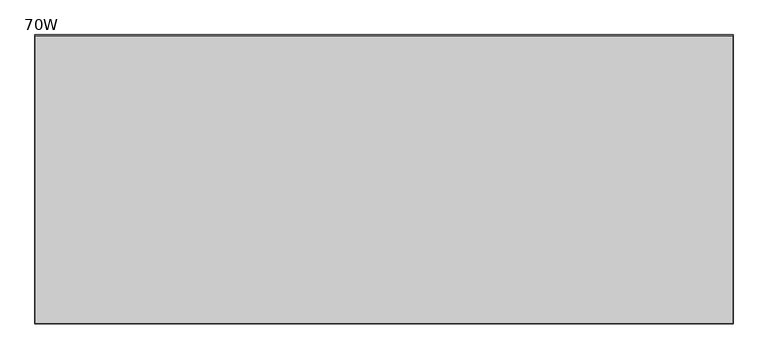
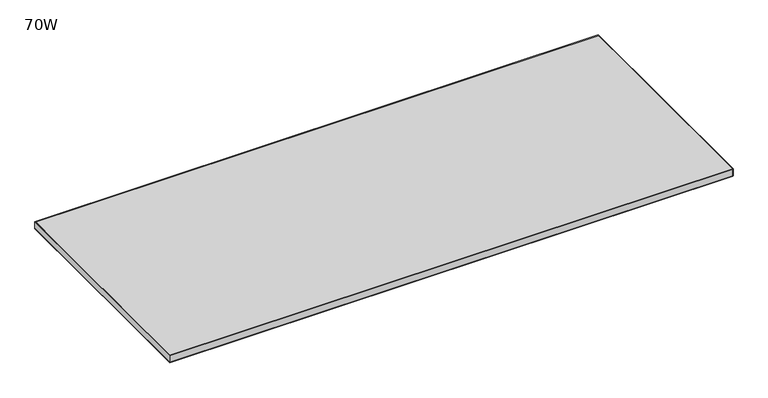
"""IFC4 building model written with IfcOpenShell, lengths in millimetres: furniture geometry, Steelcase - Ology - Desk Electric - Rectangular - 29D : 70W."""

import ifcopenshell
import ifcopenshell.guid

model = None  # the IFC model being written
_history = None  # IfcOwnerHistory: only IFC2X3 demands one
_inside = {}  # id of a spatial element -> (the spatial element, [elements in it])
_under = {}  # id of a project, library or spatial element -> (it, [spatial elements below it])
_declared = {}  # id of a project -> (the project, [libraries it declares])
_typed = {}  # id of a type object -> (the type object, [elements of that type])
_made_of = {}  # id of a material, layer set ... -> (it, [elements and type objects made of it])


def new_model(schema):
    """Start an empty IFC model of exactly this schema.

    Asked for "IFC4X3", IfcOpenShell would pick the latest addendum, in which some entities
    have other attributes; the version numbers below select the first issue.
    IFC2X3 requires an IfcOwnerHistory on every rooted entity: one is made here for all.
    """
    global model, _history
    if schema == "IFC4X3":
        model = ifcopenshell.file(schema_version=(4, 3, 0, 0))
    else:
        model = ifcopenshell.file(schema=schema)
    _inside.clear()
    _under.clear()
    _declared.clear()
    _typed.clear()
    _made_of.clear()
    _history = None
    if model.schema == "IFC2X3":
        org = make("IfcOrganization", Name="unknown")
        user = make(
            "IfcPersonAndOrganization",
            ThePerson=make("IfcPerson", FamilyName="unknown"),
            TheOrganization=org,
        )
        app = make(
            "IfcApplication",
            ApplicationDeveloper=org,
            Version="unknown",
            ApplicationFullName="unknown",
            ApplicationIdentifier="unknown",
        )
        _history = make(
            "IfcOwnerHistory",
            OwningUser=user,
            OwningApplication=app,
            ChangeAction="ADDED",
            CreationDate=0,
        )
    return model


def make(cls, **values):
    """One entity of the class cls with the attributes given. An attribute that is None is left unset."""
    return model.create_entity(
        cls, **{name: value for name, value in values.items() if value is not None}
    )


def rooted(cls, **values):
    """An entity with a GlobalId (a new one), such as an element, a storey or a relation."""
    return make(cls, GlobalId=ifcopenshell.guid.new(), OwnerHistory=_history, **values)


def si_unit(unit_type, name, prefix=None):
    """IfcSIUnit, for example si_unit("LENGTHUNIT", "METRE", prefix="MILLI")."""
    return make("IfcSIUnit", UnitType=unit_type, Prefix=prefix, Name=name)


def assignment(units):
    """IfcUnitAssignment: the units of a project."""
    return None if units is None else make("IfcUnitAssignment", Units=units)


def point(xyz):
    """IfcCartesianPoint."""
    return None if xyz is None else make("IfcCartesianPoint", Coordinates=xyz)


def direction(xyz):
    """IfcDirection."""
    return None if xyz is None else make("IfcDirection", DirectionRatios=xyz)


def frame(location, z_axis=None, x_axis=None):
    """IfcAxis2Placement3D, a coordinate frame: its origin and axes. An axis left out is left unset."""
    return make(
        "IfcAxis2Placement3D",
        Location=point(location),
        Axis=direction(z_axis),
        RefDirection=direction(x_axis),
    )


def origin():
    """The frame at (0, 0, 0) with its axes left unset."""
    return frame((0.0, 0.0, 0.0))


def place(relative_to, where):
    """IfcLocalPlacement: puts the frame where relative to a parent placement (None: the world)."""
    return make(
        "IfcLocalPlacement", PlacementRelTo=relative_to, RelativePlacement=where
    )


def context(
    kind, dimensions, precision=None, world=None, true_north=None, identifier=None
):
    """IfcGeometricRepresentationContext, for example the 3D "Model" context."""
    return make(
        "IfcGeometricRepresentationContext",
        ContextIdentifier=identifier,
        ContextType=kind,
        CoordinateSpaceDimension=dimensions,
        Precision=precision,
        WorldCoordinateSystem=world,
        TrueNorth=true_north,
    )


def project(units=None, contexts=None):
    """IfcProject with its units and contexts."""
    return rooted(
        "IfcProject",
        Name="project",
        RepresentationContexts=contexts,
        UnitsInContext=assignment(units),
    )


def spatial(cls, under=None, at=None, **own):
    """A site, building, storey or space (cls), placed at a placement, below another one or the project."""
    s = rooted(cls, ObjectPlacement=at, **own)
    if under is not None:
        _under.setdefault(under.id(), (under, []))[1].append(s)
    return s


def polyline(points):
    """IfcPolyline through the points."""
    return make("IfcPolyline", Points=[point(p) for p in points])


def outline(outer, holes=None, kind="AREA"):
    """IfcArbitraryClosedProfileDef: a profile drawn as a closed curve; with holes, ...WithVoids."""
    if holes is None:
        return make("IfcArbitraryClosedProfileDef", ProfileType=kind, OuterCurve=outer)
    return make(
        "IfcArbitraryProfileDefWithVoids",
        ProfileType=kind,
        OuterCurve=outer,
        InnerCurves=holes,
    )


def extrude(swept, where, along, depth):
    """IfcExtrudedAreaSolid: the profile swept, set in the frame where, extruded along a direction by depth."""
    return make(
        "IfcExtrudedAreaSolid",
        SweptArea=swept,
        Position=where,
        ExtrudedDirection=direction(along),
        Depth=depth,
    )


def faces_of(points, faces, orient=None, outer=None):
    """IfcFace entities. A face is a list of loops; a loop is a list of indices into points, from 0.

    orient and outer hold one flag for each loop. By default every Orientation is true, the
    first loop of a face is its IfcFaceOuterBound and the others are IfcFaceBound.
    """
    made = []
    for i, loops in enumerate(faces):
        bounds = []
        for j, loop in enumerate(loops):
            is_outer = j == 0 if outer is None else outer[i][j]
            bounds.append(
                make(
                    "IfcFaceOuterBound" if is_outer else "IfcFaceBound",
                    Bound=make("IfcPolyLoop", Polygon=[points[k] for k in loop]),
                    Orientation=True if orient is None else orient[i][j],
                )
            )
        made.append(make("IfcFace", Bounds=bounds))
    return made


def faceted_brep(points, faces, orient=None, outer=None, voids=None):
    """IfcFacetedBrep: a solid bounded by flat faces; with voids (closed shells), ...WithVoids."""
    shared = [point(p) for p in points]
    hull = make("IfcClosedShell", CfsFaces=faces_of(shared, faces, orient, outer))
    if voids is None:
        return make("IfcFacetedBrep", Outer=hull)
    return make(
        "IfcFacetedBrepWithVoids",
        Outer=hull,
        Voids=[
            make(cls, CfsFaces=faces_of(shared, fs, o, b)) for cls, fs, o, b in voids
        ],
    )


def shape(context_of_items, identifier, shape_type, items):
    """IfcShapeRepresentation: the items that make up one representation, for example the "Body"."""
    return make(
        "IfcShapeRepresentation",
        ContextOfItems=context_of_items,
        RepresentationIdentifier=identifier,
        RepresentationType=shape_type,
        Items=items,
    )


def source(mapping_origin, context_of_items, identifier, shape_type, items):
    """IfcRepresentationMap: a shape defined once, which mapped items show again and again."""
    return make(
        "IfcRepresentationMap",
        MappingOrigin=mapping_origin,
        MappedRepresentation=shape(context_of_items, identifier, shape_type, items),
    )


def transform(
    local_origin,
    x_axis=None,
    y_axis=None,
    z_axis=None,
    scale=None,
    scale2=None,
    scale3=None,
    uniform=True,
):
    """IfcCartesianTransformationOperator3D, or its non-uniform kind. x_axis, y_axis, z_axis: its Axis1, 2, 3."""
    if uniform:
        return make(
            "IfcCartesianTransformationOperator3D",
            Axis1=direction(x_axis),
            Axis2=direction(y_axis),
            LocalOrigin=point(local_origin),
            Scale=scale,
            Axis3=direction(z_axis),
        )
    return make(
        "IfcCartesianTransformationOperator3DnonUniform",
        Axis1=direction(x_axis),
        Axis2=direction(y_axis),
        LocalOrigin=point(local_origin),
        Scale=scale,
        Axis3=direction(z_axis),
        Scale2=scale2,
        Scale3=scale3,
    )


def mapped(mapping_source, mapping_target):
    """IfcMappedItem: shows the shape of a source again, moved by a transform."""
    return make(
        "IfcMappedItem", MappingSource=mapping_source, MappingTarget=mapping_target
    )


def made_of(thing, what):
    """Note that an element or type object is made of a material, layer set ...; save() writes the relation."""
    if what is not None:
        _made_of.setdefault(what.id(), (what, []))[1].append(thing)
    return thing


def element(
    cls,
    number,
    at=None,
    inside=None,
    cuts=None,
    type_object=None,
    material=None,
    context=None,
    identifier="Body",
    shape_type=None,
    held_by="IfcProductDefinitionShape",
    body=None,
    shapes=None,
    **own,
):
    """One element of the class cls, such as IfcWall. Its Tag is "e" and its number.

    at: its placement. inside: the storey or other place that contains it. cuts: it is an
    opening in that element (IfcRelVoidsElement). A single representation is given by context,
    identifier, shape_type and body (its items); several are given by shapes. held_by: the class
    of the entity that holds the representations. save() writes the other relations.
    """
    e = rooted(cls, Tag="e%d" % number, ObjectPlacement=at, **own)
    if body is not None:
        shapes = [shape(context, identifier, shape_type, body)]
    if shapes is not None:
        e.Representation = make(held_by, Representations=shapes)
    if inside is not None:
        _inside.setdefault(inside.id(), (inside, []))[1].append(e)
    if cuts is not None:
        rooted(
            "IfcRelVoidsElement", RelatingBuildingElement=cuts, RelatedOpeningElement=e
        )
    if type_object is not None:
        _typed.setdefault(type_object.id(), (type_object, []))[1].append(e)
    return made_of(e, material)


def aggregate(whole, parts):
    """IfcRelAggregates: a whole, such as a stair, and the parts it consists of."""
    return rooted("IfcRelAggregates", RelatingObject=whole, RelatedObjects=parts)


def save(model, path):
    """Write the relations noted so far, then the file.

    IfcRelAggregates (storeys below a building ...), IfcRelContainedInSpatialStructure (elements
    in a storey), IfcRelDefinesByType, IfcRelAssociatesMaterial and IfcRelDeclares: one each for
    every whole, place, type object, material and project.
    """
    for whole, parts in _under.values():
        aggregate(whole, parts)
    for where, things in _inside.values():
        rooted(
            "IfcRelContainedInSpatialStructure",
            RelatedElements=things,
            RelatingStructure=where,
        )
    for kind, things in _typed.values():
        rooted("IfcRelDefinesByType", RelatedObjects=things, RelatingType=kind)
    for what, things in _made_of.values():
        rooted("IfcRelAssociatesMaterial", RelatedObjects=things, RelatingMaterial=what)
    for by, libraries in _declared.values():
        rooted("IfcRelDeclares", RelatingContext=by, RelatedDefinitions=libraries)
    model.write(path)


def furniture_70w_9bcf4590(model_context):
    return source(origin(), model_context, "Body", "SolidModel", [
        faceted_brep([(-736.6, 451.599999, 716.1529564), (1041.4, 451.599999, 716.1529564), (1041.1794226, 451.3794217, 714.902), (-736.3794226, 451.3794217, 714.902), (-736.6, 451.599999, 738.6320349), (1041.4, 451.599999, 738.6320349), (-736.421518, 451.4215171, 739.902), (1041.221518, 451.4215171, 739.902), (1041.4, -284.9999273, 716.1529564), (1041.1794226, -284.77935, 714.902), (1041.4, -284.9999273, 738.6320349), (1041.221518, -284.8214454, 739.902), (1040.384001, -283.9839283, 739.902), (1040.384001, 448.5527419, 739.902), (1040.384001, 448.5527419, 714.902), (1040.384001, -283.9839283, 714.902), (-736.6, -284.9999273, 716.1529564), (-736.3794226, -284.77935, 714.902), (-736.6, -284.9999273, 738.6320349), (-736.421518, -284.8214454, 739.902), (-735.584001, -283.9839283, 714.902), (-735.584001, -283.9839283, 739.902), (-735.584001, 448.5527419, 714.902), (-735.584001, 448.5527419, 739.902)], [[[0, 1, 2, 3]], [[0, 4, 5, 1]], [[4, 6, 7, 5]], [[1, 8, 9, 2]], [[5, 10, 8, 1]], [[7, 11, 10, 5]], [[12, 13, 14, 15]], [[8, 16, 17, 9]], [[10, 18, 16, 8]], [[11, 19, 18, 10]], [[15, 20, 21, 12]], [[2, 9, 17, 3], [15, 14, 22, 20]], [[3, 17, 16, 0]], [[0, 16, 18, 4]], [[4, 18, 19, 6]], [[6, 19, 11, 7], [21, 23, 13, 12]], [[20, 22, 23, 21]], [[14, 13, 23, 22]]]),
        extrude(outline(polyline([(1040.384001, -283.9839283), (-735.584001, -283.9839283), (-735.584001, 448.5527419), (1040.384001, 448.5527419), (1040.384001, -283.9839283)])), frame((0.0, 0.0, 714.902), z_axis=(0.0, 0.0, 1.0), x_axis=(1.0, 0.0, 0.0)), (0.0, 0.0, 1.0), 25.0),
    ])


if __name__ == "__main__":
    model = new_model("IFC4")
    model_context = context("Model", 3, world=origin())
    ifc_project = project(units=[si_unit("LENGTHUNIT", "METRE", prefix="MILLI")], contexts=[model_context])
    site = spatial("IfcSite", under=ifc_project)
    building = spatial("IfcBuilding", under=site)
    placement = place(None, origin())
    furniture_70w_shape = furniture_70w_9bcf4590(model_context)
    element("IfcFurniture", 1, ObjectType="Steelcase - Ology - Desk Electric - Rectangular - 29D : 70W", at=placement, inside=building, context=model_context, shape_type="MappedRepresentation", body=[
        mapped(furniture_70w_shape, transform((0.0, 0.0, 0.0), x_axis=(1.0, 0.0, 0.0), y_axis=(0.0, 1.0, 0.0), z_axis=(0.0, 0.0, 1.0))),
    ])
    save(model, "model.ifc")
